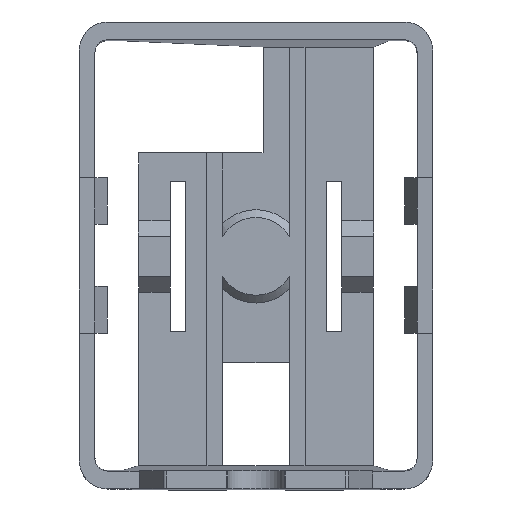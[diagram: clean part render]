
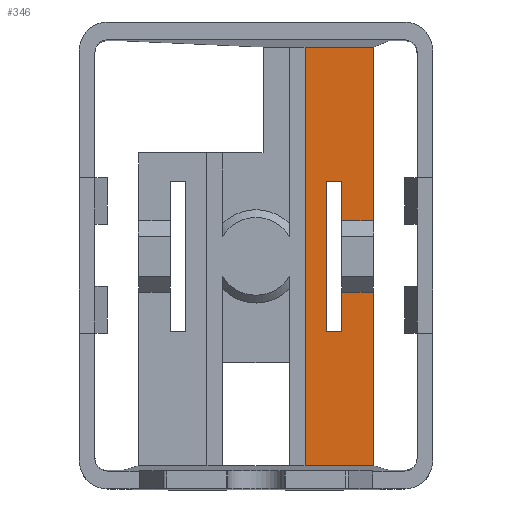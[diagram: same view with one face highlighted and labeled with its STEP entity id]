
A CAD part, top view. The second image highlights one B-rep face of the part: STEP entity #346.
In plain terms, the highlighted planar face has unit normal (0, 0, 1).
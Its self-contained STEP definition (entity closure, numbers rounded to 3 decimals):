
#346 = ADVANCED_FACE( '', ( #702 ), #703, .T. );
#702 = FACE_OUTER_BOUND( '', #1061, .T. );
#703 = PLANE( '', #1062 );
#1061 = EDGE_LOOP( '', ( #2102, #2103, #2104, #2105, #2106, #2107, #2108, #2109, #2110, #2111, #2112, #2113 ) );
#1062 = AXIS2_PLACEMENT_3D( '', #2114, #2115, #2116 );
#2102 = ORIENTED_EDGE( '', *, *, #2689, .T. );
#2103 = ORIENTED_EDGE( '', *, *, #2528, .F. );
#2104 = ORIENTED_EDGE( '', *, *, #2425, .T. );
#2105 = ORIENTED_EDGE( '', *, *, #2335, .F. );
#2106 = ORIENTED_EDGE( '', *, *, #2447, .T. );
#2107 = ORIENTED_EDGE( '', *, *, #2531, .F. );
#2108 = ORIENTED_EDGE( '', *, *, #2655, .T. );
#2109 = ORIENTED_EDGE( '', *, *, #2580, .F. );
#2110 = ORIENTED_EDGE( '', *, *, #2661, .F. );
#2111 = ORIENTED_EDGE( '', *, *, #2690, .F. );
#2112 = ORIENTED_EDGE( '', *, *, #2559, .F. );
#2113 = ORIENTED_EDGE( '', *, *, #2583, .F. );
#2114 = CARTESIAN_POINT( '', ( 0., 0., -34.3 ) );
#2115 = DIRECTION( '', ( 0., 0., 1. ) );
#2116 = DIRECTION( '', ( 1., 0., 0. ) );
#2335 = EDGE_CURVE( '', #2862, #2863, #2864, .T. );
#2425 = EDGE_CURVE( '', #3010, #2863, #3011, .T. );
#2447 = EDGE_CURVE( '', #2862, #3047, #3049, .T. );
#2528 = EDGE_CURVE( '', #3010, #3169, #3170, .T. );
#2531 = EDGE_CURVE( '', #3172, #3047, #3174, .T. );
#2559 = EDGE_CURVE( '', #3210, #3211, #3212, .T. );
#2580 = EDGE_CURVE( '', #3239, #3240, #3241, .T. );
#2583 = EDGE_CURVE( '', #3243, #3210, #3245, .T. );
#2655 = EDGE_CURVE( '', #3172, #3240, #3331, .T. );
#2661 = EDGE_CURVE( '', #3337, #3239, #3338, .T. );
#2689 = EDGE_CURVE( '', #3243, #3169, #3370, .T. );
#2690 = EDGE_CURVE( '', #3211, #3337, #3371, .T. );
#2862 = VERTEX_POINT( '', #3604 );
#2863 = VERTEX_POINT( '', #3605 );
#2864 = LINE( '', #3606, #3607 );
#3010 = VERTEX_POINT( '', #3817 );
#3011 = LINE( '', #3818, #3819 );
#3047 = VERTEX_POINT( '', #3872 );
#3049 = LINE( '', #3875, #3876 );
#3169 = VERTEX_POINT( '', #4047 );
#3170 = LINE( '', #4048, #4049 );
#3172 = VERTEX_POINT( '', #4052 );
#3174 = LINE( '', #4055, #4056 );
#3210 = VERTEX_POINT( '', #4110 );
#3211 = VERTEX_POINT( '', #4111 );
#3212 = LINE( '', #4112, #4113 );
#3239 = VERTEX_POINT( '', #4152 );
#3240 = VERTEX_POINT( '', #4153 );
#3241 = LINE( '', #4154, #4155 );
#3243 = VERTEX_POINT( '', #4158 );
#3245 = LINE( '', #4161, #4162 );
#3331 = LINE( '', #4284, #4285 );
#3337 = VERTEX_POINT( '', #4293 );
#3338 = LINE( '', #4294, #4295 );
#3370 = LINE( '', #4340, #4341 );
#3371 = LINE( '', #4342, #4343 );
#3604 = CARTESIAN_POINT( '', ( 3.15, -13.451, -34.3 ) );
#3605 = CARTESIAN_POINT( '', ( 3.15, 13.451, -34.3 ) );
#3606 = CARTESIAN_POINT( '', ( 3.15, -13.451, -34.3 ) );
#3607 = VECTOR( '', #4464, 1000. );
#3817 = CARTESIAN_POINT( '', ( 7.535, 13.451, -34.3 ) );
#3818 = CARTESIAN_POINT( '', ( 0., 13.451, -34.3 ) );
#3819 = VECTOR( '', #4559, 1000. );
#3872 = CARTESIAN_POINT( '', ( 7.535, -13.451, -34.3 ) );
#3875 = CARTESIAN_POINT( '', ( 0., -13.451, -34.3 ) );
#3876 = VECTOR( '', #4581, 1000. );
#4047 = CARTESIAN_POINT( '', ( 7.535, 2.3, -34.3 ) );
#4048 = CARTESIAN_POINT( '', ( 7.535, 0., -34.3 ) );
#4049 = VECTOR( '', #4672, 1000. );
#4052 = CARTESIAN_POINT( '', ( 7.535, -2.3, -34.3 ) );
#4055 = CARTESIAN_POINT( '', ( 7.535, 0., -34.3 ) );
#4056 = VECTOR( '', #4675, 1000. );
#4110 = CARTESIAN_POINT( '', ( 5.5, 4.8, -34.3 ) );
#4111 = CARTESIAN_POINT( '', ( 4.5, 4.8, -34.3 ) );
#4112 = CARTESIAN_POINT( '', ( 0., 4.8, -34.3 ) );
#4113 = VECTOR( '', #4700, 1000. );
#4152 = CARTESIAN_POINT( '', ( 5.5, -4.8, -34.3 ) );
#4153 = CARTESIAN_POINT( '', ( 5.5, -2.3, -34.3 ) );
#4154 = CARTESIAN_POINT( '', ( 5.5, 0., -34.3 ) );
#4155 = VECTOR( '', #4716, 1000. );
#4158 = CARTESIAN_POINT( '', ( 5.5, 2.3, -34.3 ) );
#4161 = CARTESIAN_POINT( '', ( 5.5, 0., -34.3 ) );
#4162 = VECTOR( '', #4719, 1000. );
#4284 = CARTESIAN_POINT( '', ( 7.535, -2.3, -34.3 ) );
#4285 = VECTOR( '', #4786, 1000. );
#4293 = CARTESIAN_POINT( '', ( 4.5, -4.8, -34.3 ) );
#4294 = CARTESIAN_POINT( '', ( 0., -4.8, -34.3 ) );
#4295 = VECTOR( '', #4789, 1000. );
#4340 = CARTESIAN_POINT( '', ( 7.535, 2.3, -34.3 ) );
#4341 = VECTOR( '', #4809, 1000. );
#4342 = CARTESIAN_POINT( '', ( 4.5, 0., -34.3 ) );
#4343 = VECTOR( '', #4810, 1000. );
#4464 = DIRECTION( '', ( 0., 1., 0. ) );
#4559 = DIRECTION( '', ( -1., 0., 0. ) );
#4581 = DIRECTION( '', ( 1., 0., 0. ) );
#4672 = DIRECTION( '', ( 0., -1., 0. ) );
#4675 = DIRECTION( '', ( 0., -1., 0. ) );
#4700 = DIRECTION( '', ( -1., 0., 0. ) );
#4716 = DIRECTION( '', ( 0., 1., 0. ) );
#4719 = DIRECTION( '', ( 0., 1., 0. ) );
#4786 = DIRECTION( '', ( -1., 0., 0. ) );
#4789 = DIRECTION( '', ( 1., 0., 0. ) );
#4809 = DIRECTION( '', ( 1., 0., 0. ) );
#4810 = DIRECTION( '', ( 0., -1., 0. ) );
